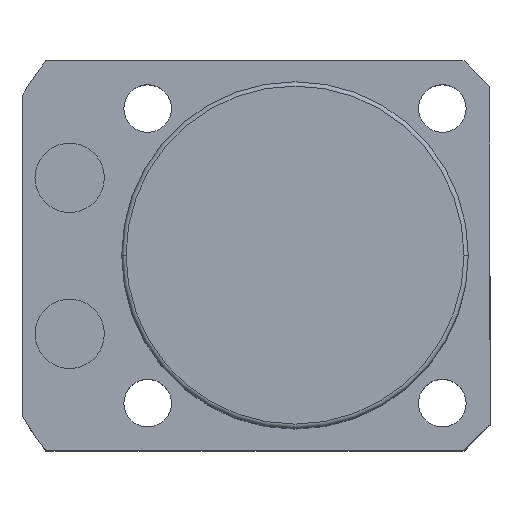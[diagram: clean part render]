
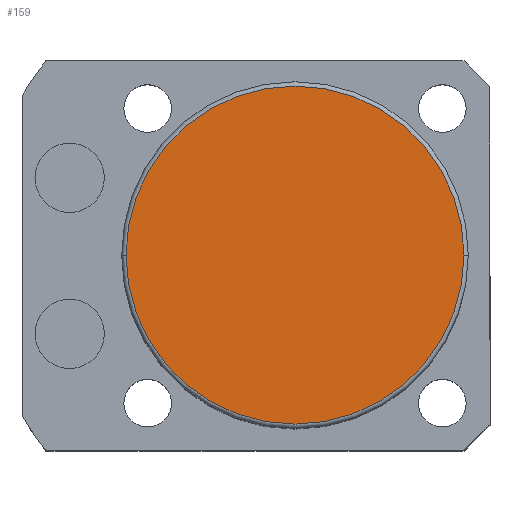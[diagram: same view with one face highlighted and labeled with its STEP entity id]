
A CAD part, top view. The second image highlights one B-rep face of the part: STEP entity #159.
In plain terms, the highlighted planar face has unit normal (0, 0, 1).
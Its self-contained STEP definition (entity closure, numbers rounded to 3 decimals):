
#8 = CARTESIAN_POINT ( 'NONE',  ( 0., 0., 58.5 ) ) ;
#159 = ADVANCED_FACE ( 'NONE', ( #1238 ), #1202, .T. ) ;
#297 = CARTESIAN_POINT ( 'NONE',  ( -19.5, 0., 58.5 ) ) ;
#374 = ORIENTED_EDGE ( 'NONE', *, *, #1596, .T. ) ;
#505 = VERTEX_POINT ( 'NONE', #971 ) ;
#645 = EDGE_CURVE ( 'NONE', #1064, #505, #990, .T. ) ;
#843 = DIRECTION ( 'NONE',  ( 0., 0., 1. ) ) ;
#971 = CARTESIAN_POINT ( 'NONE',  ( 19.5, 0., 58.5 ) ) ;
#990 = CIRCLE ( 'NONE', #4570, 19.5 ) ;
#1064 = VERTEX_POINT ( 'NONE', #297 ) ;
#1098 = DIRECTION ( 'NONE',  ( 0., 0., 1. ) ) ;
#1202 = PLANE ( 'NONE',  #4464 ) ;
#1222 = CARTESIAN_POINT ( 'NONE',  ( 0., 0., 58.5 ) ) ;
#1238 = FACE_OUTER_BOUND ( 'NONE', #1899, .T. ) ;
#1418 = ORIENTED_EDGE ( 'NONE', *, *, #645, .T. ) ;
#1596 = EDGE_CURVE ( 'NONE', #505, #1064, #4750, .T. ) ;
#1609 = DIRECTION ( 'NONE',  ( 1., 0., 0. ) ) ;
#1899 = EDGE_LOOP ( 'NONE', ( #374, #1418 ) ) ;
#1952 = DIRECTION ( 'NONE',  ( 0., 0., 1. ) ) ;
#3819 = AXIS2_PLACEMENT_3D ( 'NONE', #1222, #843, #4059 ) ;
#3968 = DIRECTION ( 'NONE',  ( 1., 0., 0. ) ) ;
#4059 = DIRECTION ( 'NONE',  ( 1., 0., 0. ) ) ;
#4464 = AXIS2_PLACEMENT_3D ( 'NONE', #4830, #1952, #1609 ) ;
#4570 = AXIS2_PLACEMENT_3D ( 'NONE', #8, #1098, #3968 ) ;
#4750 = CIRCLE ( 'NONE', #3819, 19.5 ) ;
#4830 = CARTESIAN_POINT ( 'NONE',  ( 0., 0., 58.5 ) ) ;
